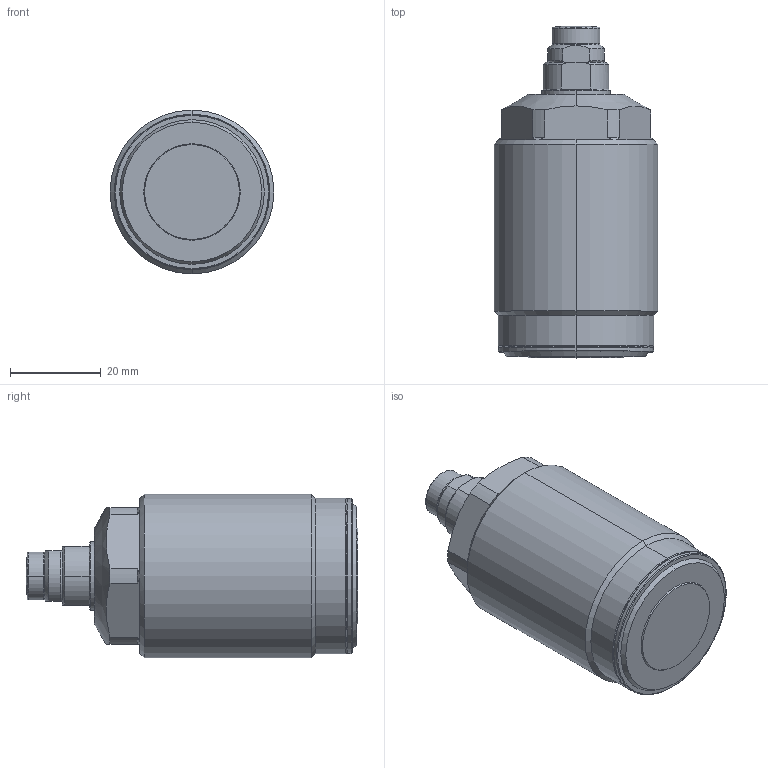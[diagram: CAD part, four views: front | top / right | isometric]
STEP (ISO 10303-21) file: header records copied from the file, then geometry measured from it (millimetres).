
FILE_DESCRIPTION(/* description */ (''),/* implementation_level */ '2;1');
FILE_NAME(/* name */ 'TSC04-M.stp',/* time_stamp */ '2025-01-10T11:14:16+08:00',/* author */ (''),/* organization */ (''),/* preprocessor_version */ 'ST-DEVELOPER v16.7',/* originating_system */ 'SIEMENS PLM Software NX 12.0',/* authorisation */ '');
FILE_SCHEMA (('AUTOMOTIVE_DESIGN { 1 0 10303 214 3 1 1 1 }'));
Length unit declared in the file: millimetre
Products named in the file (8): XLC-M10_Oring; XLC-M10SP_pin; XLC-M10SP_contactbolt; XLC-M10SP_pad; TSC04-0150; TSC04-0251; XLC-M10_-M; TSC04-M_stp
Assembly tree (7 placements, depth 3):
  TSC04-M_stp
    TSC04-0251
    TSC04-0150
    XLC-M10_-M
      XLC-M10SP_pad
      XLC-M10SP_contactbolt
      XLC-M10SP_pin
      XLC-M10_Oring
Bounding box: 36 x 73 x 36 mm (x, y, z)
Volume: 55906.6 mm3; surface area: 11117.6 mm2
Topology: 6 solids, 6 shells, 164 faces, 374 edges, 230 vertices
Faces by surface type: cylinder 53, plane 38, cone 37, torus 30, sphere 6
Entity records: 5246 total; most frequent: CARTESIAN_POINT 1264, DIRECTION 878, ORIENTED_EDGE 748, AXIS2_PLACEMENT_3D 382, EDGE_CURVE 374, VERTEX_POINT 230, CIRCLE 210, EDGE_LOOP 184
